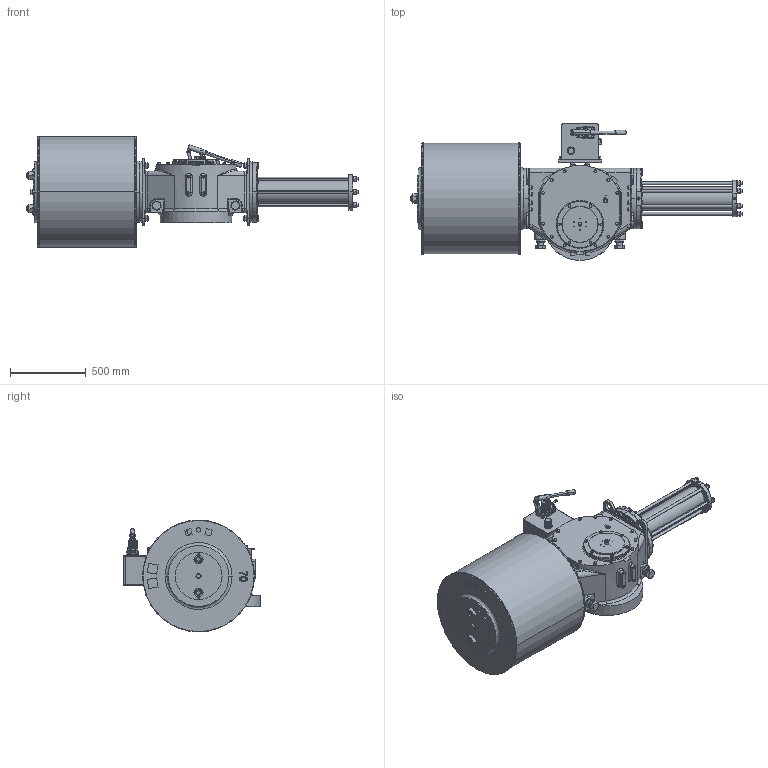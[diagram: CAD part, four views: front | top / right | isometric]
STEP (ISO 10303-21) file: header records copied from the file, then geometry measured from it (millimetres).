
FILE_DESCRIPTION (( 'STEP AP203' ), '1' );
FILE_NAME ('VTS6-700-MH.STEP', '2023-01-01T10:04:17', ( '' ), ( '' ), 'SwSTEP 2.0', 'SolidWorks 2020', '' );
FILE_SCHEMA (( 'CONFIG_CONTROL_DESIGN' ));
Length unit declared in the file: millimetre
Products named in the file (1): VTS6-700-MH
Bounding box: 2193 x 903.5 x 739 mm (x, y, z)
Volume: 417278176.7 mm3; surface area: 6649873.9 mm2
Topology: 77 solids, 80 shells, 3242 faces, 7991 edges, 5069 vertices
Faces by surface type: plane 1367, cylinder 1024, cone 752, bspline 99
Entity records: 111102 total; most frequent: CARTESIAN_POINT 34851, DIRECTION 15948, ORIENTED_EDGE 15866, EDGE_CURVE 7933, AXIS2_PLACEMENT_3D 6302, VERTEX_POINT 5069, EDGE_LOOP 3696, VECTOR 3344
